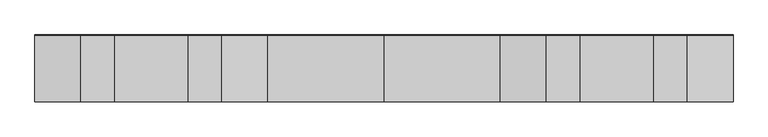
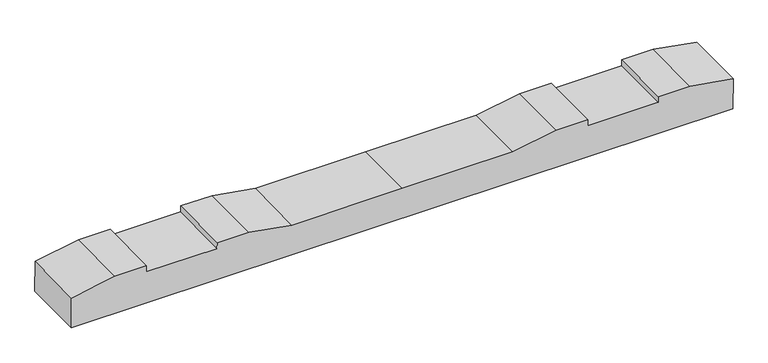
"""IFC4 building model written with IfcOpenShell, lengths in millimetres: proxy geometry, 轨枕-立面角度 : 轨枕-立面角度."""

from ifc_helpers import new_model, si_unit, frame, origin, place, context, project, spatial, polyline, outline, extrude, source, transform, mapped, element, save


def generic_models_eaf7fc0b(model_context):
    return source(origin(), model_context, "Body", "SweptSolid", [
        extrude(outline(polyline([(0.0, 0.0), (2099.7669328, 0.0), (2099.7669328, -100.0206889), (1961.8834664, -124.5), (1861.8834664, -124.5), (1861.8834664, -104.5), (1637.8834664, -104.5), (1637.8834664, -124.5), (1537.8834664, -124.5), (1399.8834664, -100.0), (1049.8834664, -100.0), (699.8834664, -100.0), (561.8834664, -124.5), (461.8834664, -124.5), (461.8834664, -104.5), (237.8834664, -104.5), (237.8834664, -124.5), (137.8834664, -124.5), (0.0, -100.0206889), (0.0, 0.0)])), frame((-1049.8834664, -99.2009959, -105.2587878), z_axis=(0.0, 0.9999709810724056, 0.00761820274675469), x_axis=(1.0, 0.0, 0.0)), (0.0, 0.0, 1.0), 200.0),
    ])


if __name__ == "__main__":
    model = new_model("IFC4")
    model_context = context("Model", 3, world=origin())
    ifc_project = project(units=[si_unit("LENGTHUNIT", "METRE", prefix="MILLI")], contexts=[model_context])
    site = spatial("IfcSite", under=ifc_project)
    building = spatial("IfcBuilding", under=site)
    placement = place(None, origin())
    generic_models_shape = generic_models_eaf7fc0b(model_context)
    element("IfcBuildingElementProxy", 1, Name="轨枕-立面角度 : 轨枕-立面角度", ObjectType="轨枕-立面角度 : 轨枕-立面角度", at=placement, inside=building, context=model_context, shape_type="MappedRepresentation", body=[
        mapped(generic_models_shape, transform((0.0, 0.0, 0.0), x_axis=(1.0, 0.0, 0.0), y_axis=(0.0, 1.0, 0.0), z_axis=(0.0, 0.0, 1.0))),
    ])
    save(model, "model.ifc")
